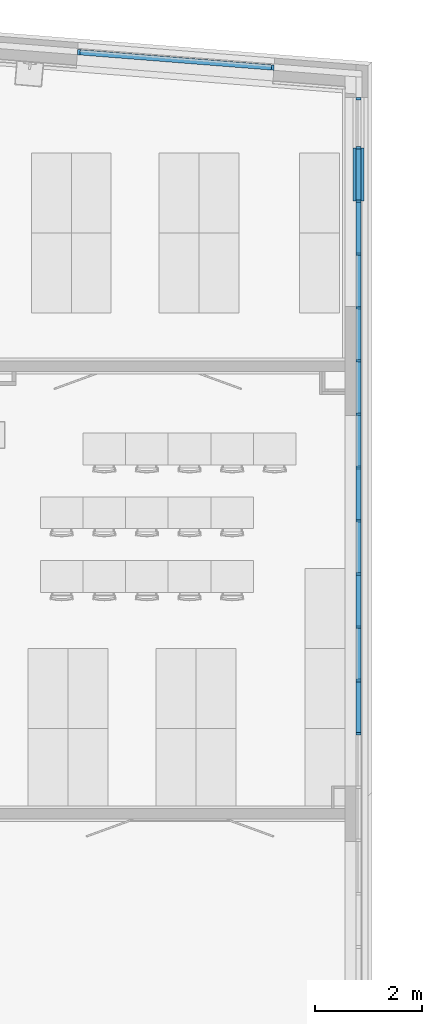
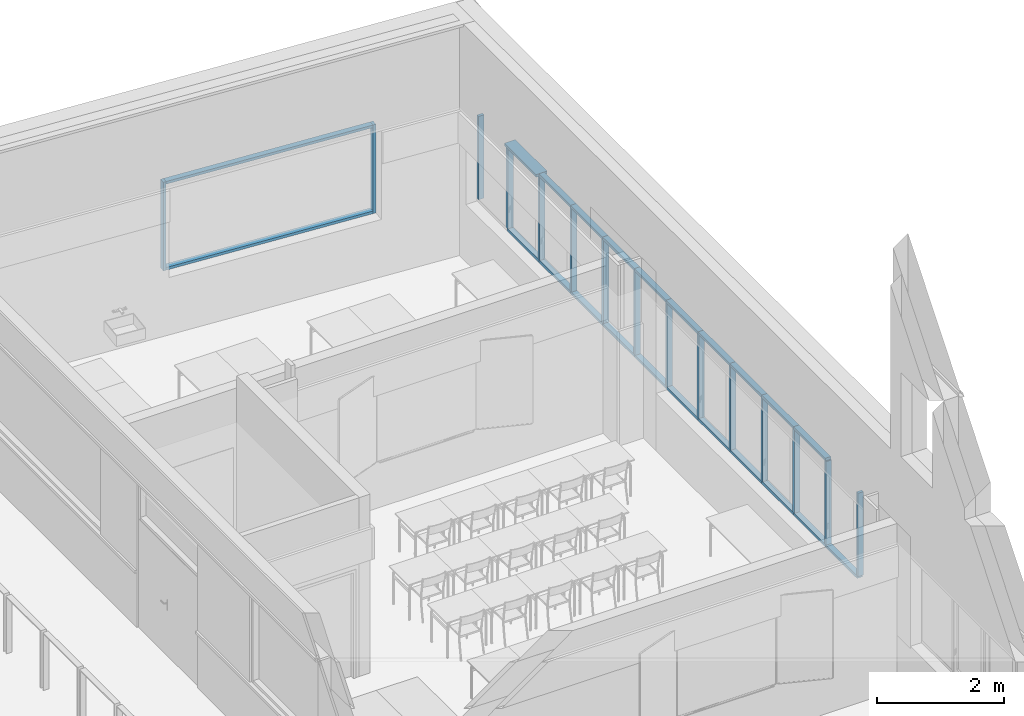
# One storey, part 18 of 137: 38 members, 2 elements without a shape of their own.
"""IFC2X3 building model written with IfcOpenShell, lengths in centimetres."""

from ifc_helpers import new_model, entity, si_unit, converted_unit, derived_unit, direction, frame, frame_2d, origin, origin_2d_with_axis, place, context, subcontext, project, spatial, rectangle, extrude, material, type_object, element, aggregate, save


model = new_model("IFC2X3")

# Units and contexts
model_context = context("Model", 3, precision=0.001, world=origin(), true_north=direction((6.12303176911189e-17, 1.0)))
body_context = subcontext(model_context, "Body", "Model", "MODEL_VIEW")
ifc_project = project(units=[si_unit("LENGTHUNIT", "METRE", prefix="CENTI"), si_unit("AREAUNIT", "SQUARE_METRE"), si_unit("VOLUMEUNIT", "CUBIC_METRE"), converted_unit("PLANEANGLEUNIT", "DEGREE", entity("IfcRatioMeasure", 0.0174532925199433), si_unit("PLANEANGLEUNIT", "RADIAN"), dimensions=[0, 0, 0, 0, 0, 0, 0]), si_unit("MASSUNIT", "GRAM", prefix="KILO"), si_unit("TIMEUNIT", "SECOND"), si_unit("FREQUENCYUNIT", "HERTZ"), si_unit("THERMODYNAMICTEMPERATUREUNIT", "DEGREE_CELSIUS"), derived_unit("THERMALTRANSMITTANCEUNIT", [(si_unit("MASSUNIT", "GRAM", prefix="KILO"), 1), (si_unit("THERMODYNAMICTEMPERATUREUNIT", "KELVIN"), -1), (si_unit("TIMEUNIT", "SECOND"), -3)]), derived_unit("VOLUMETRICFLOWRATEUNIT", [(si_unit("LENGTHUNIT", "METRE"), 3), (si_unit("TIMEUNIT", "SECOND"), -1)]), si_unit("ELECTRICCURRENTUNIT", "AMPERE"), si_unit("ELECTRICVOLTAGEUNIT", "VOLT"), si_unit("POWERUNIT", "WATT"), si_unit("FORCEUNIT", "NEWTON", prefix="KILO"), si_unit("ILLUMINANCEUNIT", "LUX"), si_unit("LUMINOUSFLUXUNIT", "LUMEN"), si_unit("LUMINOUSINTENSITYUNIT", "CANDELA"), derived_unit("USERDEFINED", [(si_unit("MASSUNIT", "GRAM", prefix="KILO"), -1), (si_unit("LENGTHUNIT", "METRE"), -2), (si_unit("TIMEUNIT", "SECOND"), 3), (si_unit("LUMINOUSFLUXUNIT", "LUMEN"), 1)]), derived_unit("LINEARVELOCITYUNIT", [(si_unit("LENGTHUNIT", "METRE"), 1), (si_unit("TIMEUNIT", "SECOND"), -1)]), si_unit("PRESSUREUNIT", "PASCAL"), derived_unit("USERDEFINED", [(si_unit("LENGTHUNIT", "METRE"), -2), (si_unit("MASSUNIT", "GRAM", prefix="KILO"), 1), (si_unit("TIMEUNIT", "SECOND"), -2)])], contexts=[model_context])

# Site, building, storey
site_placement = place(None, frame((8.62739174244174, -249.285249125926, 0.0)))
site = spatial("IfcSite", under=ifc_project, at=site_placement, Name="Default", CompositionType="ELEMENT")
building_placement = place(site_placement, origin())
building = spatial("IfcBuilding", under=site, at=building_placement, CompositionType="ELEMENT")
storey_placement = place(building_placement, origin())
storey = spatial("IfcBuildingStorey", under=building, at=storey_placement, Name="RDC", CompositionType="ELEMENT", Elevation=-8.82465566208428e-11)

# Curtain wall, members
curtain_wall_type = type_object("IfcCurtainWallType", Name="Mur-rideau:Simple panneau", PredefinedType="NOTDEFINED")
curtain_wall_1_placement = place(storey_placement, origin())
curtain_wall_1 = element("IfcCurtainWall", 1, at=curtain_wall_1_placement, inside=storey, type_object=curtain_wall_type, Name="Mur-rideau:Simple panneau", ObjectType="Mur-rideau:Simple panneau")
ifc_material = material(Name="Plastique, blanc opaque")
member_1_placement = place(curtain_wall_1_placement, origin())
member_1 = element("IfcMember", 2, at=member_1_placement, material=ifc_material, Name="Mur-rideau:Simple panneau", ObjectType="Mur-rideau:Simple panneau", context=body_context, shape_type="SweptSolid", body=[
    extrude(rectangle(XDim=9.99999999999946, YDim=4.99999999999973, at=frame_2d((0.0, -4.33209024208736e-13), x_axis=(1.0, 0.0))), frame((4003.90482781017, 7446.88936908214, 275.0), z_axis=(0.0, 0.0, -1.0), x_axis=(-1.0, 0.0, 0.0)), (0.0, 0.0, 1.0), 160.0),
])
member_2_placement = place(curtain_wall_1_placement, origin())
member_2 = element("IfcMember", 3, at=member_2_placement, material=ifc_material, Name="Mur-rideau:Simple panneau", ObjectType="Mur-rideau:Simple panneau", context=body_context, shape_type="SweptSolid", body=[
    extrude(rectangle(XDim=5.0, YDim=20.0000000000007, at=frame_2d((2.70894418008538e-14, 0.0), x_axis=(1.0, 0.0))), frame((4003.90482781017, 7254.9802081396, 277.500000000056), z_axis=(0.0, 1.0, 0.0), x_axis=(0.0, 0.0, -1.0)), (0.0, 0.0, 1.0), 100.000000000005),
])
member_3_placement = place(curtain_wall_1_placement, origin())
member_3 = element("IfcMember", 4, at=member_3_placement, material=ifc_material, Name="Mur-rideau:Simple panneau", ObjectType="Mur-rideau:Simple panneau", context=body_context, shape_type="SweptSolid", body=[
    extrude(rectangle(XDim=5.0, YDim=9.99999999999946, at=frame_2d((2.70894418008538e-14, 0.0), x_axis=(1.0, 0.0))), frame((4003.90482781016, 7154.9802081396, 277.500000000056), z_axis=(0.0, 1.0, 0.0), x_axis=(0.0, 0.0, -1.0)), (0.0, 0.0, 1.0), 99.9999999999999),
])
member_4_placement = place(curtain_wall_1_placement, origin())
member_4 = element("IfcMember", 5, at=member_4_placement, material=ifc_material, Name="Mur-rideau:Simple panneau", ObjectType="Mur-rideau:Simple panneau", context=body_context, shape_type="SweptSolid", body=[
    extrude(rectangle(XDim=5.0, YDim=9.99999999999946, at=frame_2d((2.70894418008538e-14, 0.0), x_axis=(1.0, 0.0))), frame((4003.90482781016, 7054.9802081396, 277.500000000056), z_axis=(0.0, 1.0, 0.0), x_axis=(0.0, 0.0, -1.0)), (0.0, 0.0, 1.0), 99.9999999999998),
])
member_5_placement = place(curtain_wall_1_placement, origin())
member_5 = element("IfcMember", 6, at=member_5_placement, material=ifc_material, Name="Mur-rideau:Simple panneau", ObjectType="Mur-rideau:Simple panneau", context=body_context, shape_type="SweptSolid", body=[
    extrude(rectangle(XDim=5.0, YDim=9.99999999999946, at=frame_2d((2.70894418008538e-14, 0.0), x_axis=(1.0, 0.0))), frame((4003.90482781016, 6954.9802081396, 277.500000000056), z_axis=(0.0, 1.0, 0.0), x_axis=(0.0, 0.0, -1.0)), (0.0, 0.0, 1.0), 99.9999999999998),
])
member_6_placement = place(curtain_wall_1_placement, origin())
member_6 = element("IfcMember", 7, at=member_6_placement, material=ifc_material, Name="Mur-rideau:Simple panneau", ObjectType="Mur-rideau:Simple panneau", context=body_context, shape_type="SweptSolid", body=[
    extrude(rectangle(XDim=5.0, YDim=9.99999999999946, at=frame_2d((2.70894418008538e-14, 0.0), x_axis=(1.0, 0.0))), frame((4003.90482781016, 6854.9802081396, 277.500000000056), z_axis=(0.0, 1.0, 0.0), x_axis=(0.0, 0.0, -1.0)), (0.0, 0.0, 1.0), 99.9999999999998),
])
member_7_placement = place(curtain_wall_1_placement, origin())
member_7 = element("IfcMember", 8, at=member_7_placement, material=ifc_material, Name="Mur-rideau:Simple panneau", ObjectType="Mur-rideau:Simple panneau", context=body_context, shape_type="SweptSolid", body=[
    extrude(rectangle(XDim=5.0, YDim=9.99999999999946, at=frame_2d((2.70894418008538e-14, 0.0), x_axis=(1.0, 0.0))), frame((4003.90482781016, 6754.9802081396, 277.500000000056), z_axis=(0.0, 1.0, 0.0), x_axis=(0.0, 0.0, -1.0)), (0.0, 0.0, 1.0), 99.9999999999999),
])
member_8_placement = place(curtain_wall_1_placement, origin())
member_8 = element("IfcMember", 9, at=member_8_placement, material=ifc_material, Name="Mur-rideau:Simple panneau", ObjectType="Mur-rideau:Simple panneau", context=body_context, shape_type="SweptSolid", body=[
    extrude(rectangle(XDim=5.0, YDim=9.99999999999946, at=frame_2d((2.70894418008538e-14, 0.0), x_axis=(1.0, 0.0))), frame((4003.90482781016, 6654.9802081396, 277.500000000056), z_axis=(0.0, 1.0, 0.0), x_axis=(0.0, 0.0, -1.0)), (0.0, 0.0, 1.0), 99.9999999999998),
])
member_9_placement = place(curtain_wall_1_placement, origin())
member_9 = element("IfcMember", 10, at=member_9_placement, material=ifc_material, Name="Mur-rideau:Simple panneau", ObjectType="Mur-rideau:Simple panneau", context=body_context, shape_type="SweptSolid", body=[
    extrude(rectangle(XDim=5.0, YDim=9.99999999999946, at=frame_2d((2.70894418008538e-14, 0.0), x_axis=(1.0, 0.0))), frame((4003.90482781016, 6554.9802081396, 277.500000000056), z_axis=(0.0, 1.0, 0.0), x_axis=(0.0, 0.0, -1.0)), (0.0, 0.0, 1.0), 99.9999999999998),
])
member_10_placement = place(curtain_wall_1_placement, origin())
member_10 = element("IfcMember", 11, at=member_10_placement, material=ifc_material, Name="Mur-rideau:Simple panneau", ObjectType="Mur-rideau:Simple panneau", context=body_context, shape_type="SweptSolid", body=[
    extrude(rectangle(XDim=5.0, YDim=9.99999999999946, at=frame_2d((2.70894418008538e-14, 0.0), x_axis=(1.0, 0.0))), frame((4003.90482781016, 6454.9802081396, 277.500000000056), z_axis=(0.0, 1.0, 0.0), x_axis=(0.0, 0.0, -1.0)), (0.0, 0.0, 1.0), 99.9999999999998),
])
member_11_placement = place(curtain_wall_1_placement, origin())
member_11 = element("IfcMember", 12, at=member_11_placement, material=ifc_material, Name="Mur-rideau:Simple panneau", ObjectType="Mur-rideau:Simple panneau", context=body_context, shape_type="SweptSolid", body=[
    extrude(rectangle(XDim=5.0, YDim=9.99999999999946, at=frame_2d((2.70894418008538e-14, 0.0), x_axis=(1.0, 0.0))), frame((4003.90482781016, 6354.9802081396, 277.500000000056), z_axis=(0.0, 1.0, 0.0), x_axis=(0.0, 0.0, -1.0)), (0.0, 0.0, 1.0), 99.9999999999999),
])
member_12_placement = place(curtain_wall_1_placement, origin())
member_12 = element("IfcMember", 13, at=member_12_placement, material=ifc_material, Name="Mur-rideau:Simple panneau", ObjectType="Mur-rideau:Simple panneau", context=body_context, shape_type="SweptSolid", body=[
    extrude(rectangle(XDim=9.99999999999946, YDim=5.0000000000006, at=origin_2d_with_axis()), frame((4003.90482781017, 7354.9802081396, 115.0), z_axis=(0.0, 0.0, 1.0), x_axis=(-1.0, 0.0, 0.0)), (0.0, 0.0, 1.0), 160.0),
])
member_13_placement = place(curtain_wall_1_placement, origin())
member_13 = element("IfcMember", 14, at=member_13_placement, material=ifc_material, Name="Mur-rideau:Simple panneau", ObjectType="Mur-rideau:Simple panneau", context=body_context, shape_type="SweptSolid", body=[
    extrude(rectangle(XDim=9.99999999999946, YDim=5.0000000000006, at=origin_2d_with_axis()), frame((4003.90482781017, 7254.9802081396, 115.0), z_axis=(0.0, 0.0, 1.0), x_axis=(-1.0, 0.0, 0.0)), (0.0, 0.0, 1.0), 160.0),
])
member_14_placement = place(curtain_wall_1_placement, origin())
member_14 = element("IfcMember", 15, at=member_14_placement, material=ifc_material, Name="Mur-rideau:Simple panneau", ObjectType="Mur-rideau:Simple panneau", context=body_context, shape_type="SweptSolid", body=[
    extrude(rectangle(XDim=9.99999999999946, YDim=5.0000000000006, at=frame_2d((8.66418048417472e-13, 0.0), x_axis=(1.0, 0.0))), frame((4003.90482781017, 7154.9802081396, 115.0), z_axis=(0.0, 0.0, 1.0), x_axis=(-1.0, 0.0, 0.0)), (0.0, 0.0, 1.0), 160.0),
])
member_15_placement = place(curtain_wall_1_placement, origin())
member_15 = element("IfcMember", 16, at=member_15_placement, material=ifc_material, Name="Mur-rideau:Simple panneau", ObjectType="Mur-rideau:Simple panneau", context=body_context, shape_type="SweptSolid", body=[
    extrude(rectangle(XDim=9.99999999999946, YDim=5.0000000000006, at=frame_2d((8.66418048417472e-13, 0.0), x_axis=(1.0, 0.0))), frame((4003.90482781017, 7054.9802081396, 115.0), z_axis=(0.0, 0.0, 1.0), x_axis=(-1.0, 0.0, 0.0)), (0.0, 0.0, 1.0), 160.0),
])
member_16_placement = place(curtain_wall_1_placement, origin())
member_16 = element("IfcMember", 17, at=member_16_placement, material=ifc_material, Name="Mur-rideau:Simple panneau", ObjectType="Mur-rideau:Simple panneau", context=body_context, shape_type="SweptSolid", body=[
    extrude(rectangle(XDim=9.99999999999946, YDim=5.0000000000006, at=frame_2d((8.66418048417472e-13, 0.0), x_axis=(1.0, 0.0))), frame((4003.90482781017, 6954.9802081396, 115.0), z_axis=(0.0, 0.0, 1.0), x_axis=(-1.0, 0.0, 0.0)), (0.0, 0.0, 1.0), 160.0),
])
member_17_placement = place(curtain_wall_1_placement, origin())
member_17 = element("IfcMember", 18, at=member_17_placement, material=ifc_material, Name="Mur-rideau:Simple panneau", ObjectType="Mur-rideau:Simple panneau", context=body_context, shape_type="SweptSolid", body=[
    extrude(rectangle(XDim=9.99999999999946, YDim=5.0000000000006, at=frame_2d((8.66418048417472e-13, 0.0), x_axis=(1.0, 0.0))), frame((4003.90482781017, 6854.9802081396, 115.0), z_axis=(0.0, 0.0, 1.0), x_axis=(-1.0, 0.0, 0.0)), (0.0, 0.0, 1.0), 160.0),
])
member_18_placement = place(curtain_wall_1_placement, origin())
member_18 = element("IfcMember", 19, at=member_18_placement, material=ifc_material, Name="Mur-rideau:Simple panneau", ObjectType="Mur-rideau:Simple panneau", context=body_context, shape_type="SweptSolid", body=[
    extrude(rectangle(XDim=9.99999999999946, YDim=5.0000000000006, at=origin_2d_with_axis()), frame((4003.90482781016, 6754.9802081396, 115.0), z_axis=(0.0, 0.0, 1.0), x_axis=(-1.0, 0.0, 0.0)), (0.0, 0.0, 1.0), 160.0),
])
member_19_placement = place(curtain_wall_1_placement, origin())
member_19 = element("IfcMember", 20, at=member_19_placement, material=ifc_material, Name="Mur-rideau:Simple panneau", ObjectType="Mur-rideau:Simple panneau", context=body_context, shape_type="SweptSolid", body=[
    extrude(rectangle(XDim=9.99999999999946, YDim=5.0000000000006, at=origin_2d_with_axis()), frame((4003.90482781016, 6654.9802081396, 115.0), z_axis=(0.0, 0.0, 1.0), x_axis=(-1.0, 0.0, 0.0)), (0.0, 0.0, 1.0), 160.0),
])
member_20_placement = place(curtain_wall_1_placement, origin())
member_20 = element("IfcMember", 21, at=member_20_placement, material=ifc_material, Name="Mur-rideau:Simple panneau", ObjectType="Mur-rideau:Simple panneau", context=body_context, shape_type="SweptSolid", body=[
    extrude(rectangle(XDim=9.99999999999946, YDim=5.0000000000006, at=origin_2d_with_axis()), frame((4003.90482781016, 6554.9802081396, 115.0), z_axis=(0.0, 0.0, 1.0), x_axis=(-1.0, 0.0, 0.0)), (0.0, 0.0, 1.0), 160.0),
])
member_21_placement = place(curtain_wall_1_placement, origin())
member_21 = element("IfcMember", 22, at=member_21_placement, material=ifc_material, Name="Mur-rideau:Simple panneau", ObjectType="Mur-rideau:Simple panneau", context=body_context, shape_type="SweptSolid", body=[
    extrude(rectangle(XDim=9.99999999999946, YDim=5.0000000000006, at=origin_2d_with_axis()), frame((4003.90482781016, 6454.9802081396, 115.0), z_axis=(0.0, 0.0, 1.0), x_axis=(-1.0, 0.0, 0.0)), (0.0, 0.0, 1.0), 160.0),
])
member_22_placement = place(curtain_wall_1_placement, origin())
member_22 = element("IfcMember", 23, at=member_22_placement, material=ifc_material, Name="Mur-rideau:Simple panneau", ObjectType="Mur-rideau:Simple panneau", context=body_context, shape_type="SweptSolid", body=[
    extrude(rectangle(XDim=9.99999999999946, YDim=5.0000000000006, at=origin_2d_with_axis()), frame((4003.90482781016, 6354.9802081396, 115.0), z_axis=(0.0, 0.0, 1.0), x_axis=(-1.0, 0.0, 0.0)), (0.0, 0.0, 1.0), 160.0),
])
member_23_placement = place(curtain_wall_1_placement, origin())
member_23 = element("IfcMember", 24, at=member_23_placement, material=ifc_material, Name="Mur-rideau:Simple panneau", ObjectType="Mur-rideau:Simple panneau", context=body_context, shape_type="SweptSolid", body=[
    extrude(rectangle(XDim=9.99999999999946, YDim=5.0000000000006, at=origin_2d_with_axis()), frame((4003.90482781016, 6254.9802081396, 115.0), z_axis=(0.0, 0.0, 1.0), x_axis=(-1.0, 0.0, 0.0)), (0.0, 0.0, 1.0), 160.0),
])
member_24_placement = place(curtain_wall_1_placement, origin())
member_24 = element("IfcMember", 25, at=member_24_placement, material=ifc_material, Name="Mur-rideau:Simple panneau", ObjectType="Mur-rideau:Simple panneau", context=body_context, shape_type="SweptSolid", body=[
    extrude(rectangle(XDim=5.0, YDim=9.99999999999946, at=origin_2d_with_axis()), frame((4003.90482781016, 6354.9802081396, 112.500000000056), z_axis=(0.0, -1.0, 0.0), x_axis=(0.0, 0.0, -1.0)), (0.0, 0.0, 1.0), 99.9999999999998),
])
member_25_placement = place(curtain_wall_1_placement, origin())
member_25 = element("IfcMember", 26, at=member_25_placement, material=ifc_material, Name="Mur-rideau:Simple panneau", ObjectType="Mur-rideau:Simple panneau", context=body_context, shape_type="SweptSolid", body=[
    extrude(rectangle(XDim=5.0, YDim=9.99999999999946, at=origin_2d_with_axis()), frame((4003.90482781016, 6454.9802081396, 112.500000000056), z_axis=(0.0, -1.0, 0.0), x_axis=(0.0, 0.0, -1.0)), (0.0, 0.0, 1.0), 99.9999999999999),
])
member_26_placement = place(curtain_wall_1_placement, origin())
member_26 = element("IfcMember", 27, at=member_26_placement, material=ifc_material, Name="Mur-rideau:Simple panneau", ObjectType="Mur-rideau:Simple panneau", context=body_context, shape_type="SweptSolid", body=[
    extrude(rectangle(XDim=5.0, YDim=9.99999999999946, at=origin_2d_with_axis()), frame((4003.90482781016, 6554.9802081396, 112.500000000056), z_axis=(0.0, -1.0, 0.0), x_axis=(0.0, 0.0, -1.0)), (0.0, 0.0, 1.0), 99.9999999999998),
])
member_27_placement = place(curtain_wall_1_placement, origin())
member_27 = element("IfcMember", 28, at=member_27_placement, material=ifc_material, Name="Mur-rideau:Simple panneau", ObjectType="Mur-rideau:Simple panneau", context=body_context, shape_type="SweptSolid", body=[
    extrude(rectangle(XDim=5.0, YDim=9.99999999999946, at=origin_2d_with_axis()), frame((4003.90482781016, 6654.9802081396, 112.500000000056), z_axis=(0.0, -1.0, 0.0), x_axis=(0.0, 0.0, -1.0)), (0.0, 0.0, 1.0), 99.9999999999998),
])
member_28_placement = place(curtain_wall_1_placement, origin())
member_28 = element("IfcMember", 29, at=member_28_placement, material=ifc_material, Name="Mur-rideau:Simple panneau", ObjectType="Mur-rideau:Simple panneau", context=body_context, shape_type="SweptSolid", body=[
    extrude(rectangle(XDim=5.0, YDim=9.99999999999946, at=origin_2d_with_axis()), frame((4003.90482781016, 6754.9802081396, 112.500000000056), z_axis=(0.0, -1.0, 0.0), x_axis=(0.0, 0.0, -1.0)), (0.0, 0.0, 1.0), 99.9999999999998),
])
member_29_placement = place(curtain_wall_1_placement, origin())
member_29 = element("IfcMember", 30, at=member_29_placement, material=ifc_material, Name="Mur-rideau:Simple panneau", ObjectType="Mur-rideau:Simple panneau", context=body_context, shape_type="SweptSolid", body=[
    extrude(rectangle(XDim=5.0, YDim=9.99999999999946, at=origin_2d_with_axis()), frame((4003.90482781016, 6854.9802081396, 112.500000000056), z_axis=(0.0, -1.0, 0.0), x_axis=(0.0, 0.0, -1.0)), (0.0, 0.0, 1.0), 99.9999999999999),
])
member_30_placement = place(curtain_wall_1_placement, origin())
member_30 = element("IfcMember", 31, at=member_30_placement, material=ifc_material, Name="Mur-rideau:Simple panneau", ObjectType="Mur-rideau:Simple panneau", context=body_context, shape_type="SweptSolid", body=[
    extrude(rectangle(XDim=5.0, YDim=9.99999999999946, at=origin_2d_with_axis()), frame((4003.90482781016, 6954.9802081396, 112.500000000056), z_axis=(0.0, -1.0, 0.0), x_axis=(0.0, 0.0, -1.0)), (0.0, 0.0, 1.0), 99.9999999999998),
])
member_31_placement = place(curtain_wall_1_placement, origin())
member_31 = element("IfcMember", 32, at=member_31_placement, material=ifc_material, Name="Mur-rideau:Simple panneau", ObjectType="Mur-rideau:Simple panneau", context=body_context, shape_type="SweptSolid", body=[
    extrude(rectangle(XDim=5.0, YDim=9.99999999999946, at=origin_2d_with_axis()), frame((4003.90482781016, 7054.9802081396, 112.500000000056), z_axis=(0.0, -1.0, 0.0), x_axis=(0.0, 0.0, -1.0)), (0.0, 0.0, 1.0), 99.9999999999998),
])
member_32_placement = place(curtain_wall_1_placement, origin())
member_32 = element("IfcMember", 33, at=member_32_placement, material=ifc_material, Name="Mur-rideau:Simple panneau", ObjectType="Mur-rideau:Simple panneau", context=body_context, shape_type="SweptSolid", body=[
    extrude(rectangle(XDim=5.0, YDim=9.99999999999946, at=origin_2d_with_axis()), frame((4003.90482781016, 7154.9802081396, 112.500000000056), z_axis=(0.0, -1.0, 0.0), x_axis=(0.0, 0.0, -1.0)), (0.0, 0.0, 1.0), 99.9999999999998),
])
member_33_placement = place(curtain_wall_1_placement, origin())
member_33 = element("IfcMember", 34, at=member_33_placement, material=ifc_material, Name="Mur-rideau:Simple panneau", ObjectType="Mur-rideau:Simple panneau", context=body_context, shape_type="SweptSolid", body=[
    extrude(rectangle(XDim=5.0, YDim=9.99999999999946, at=origin_2d_with_axis()), frame((4003.90482781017, 7254.9802081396, 112.500000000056), z_axis=(0.0, -1.0, 0.0), x_axis=(0.0, 0.0, -1.0)), (0.0, 0.0, 1.0), 99.9999999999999),
])
member_34_placement = place(curtain_wall_1_placement, origin())
member_34 = element("IfcMember", 35, at=member_34_placement, material=ifc_material, Name="Mur-rideau:Simple panneau", ObjectType="Mur-rideau:Simple panneau", context=body_context, shape_type="SweptSolid", body=[
    extrude(rectangle(XDim=5.0, YDim=9.99999999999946, at=origin_2d_with_axis()), frame((4003.90482781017, 7354.9802081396, 112.500000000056), z_axis=(0.0, -1.0, 0.0), x_axis=(0.0, 0.0, -1.0)), (0.0, 0.0, 1.0), 99.9999999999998),
])
aggregate(curtain_wall_1, [member_1, member_2, member_3, member_4, member_5, member_6, member_7, member_8, member_9, member_10, member_11, member_12, member_13, member_14, member_15, member_16, member_17, member_18, member_19, member_20, member_21, member_22, member_23, member_24, member_25, member_26, member_27, member_28, member_29, member_30, member_31, member_32, member_33, member_34])

curtain_wall_2_placement = place(storey_placement, origin())
curtain_wall_2 = element("IfcCurtainWall", 36, at=curtain_wall_2_placement, inside=storey, type_object=curtain_wall_type, Name="Mur-rideau:Simple panneau", ObjectType="Mur-rideau:Simple panneau")
member_35_placement = place(curtain_wall_2_placement, origin())
member_35 = element("IfcMember", 37, at=member_35_placement, material=ifc_material, Name="Mur-rideau:Simple panneau", ObjectType="Mur-rideau:Simple panneau", context=body_context, shape_type="SweptSolid", body=[
    extrude(rectangle(XDim=9.99999999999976, YDim=4.99999999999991, at=frame_2d((4.32098801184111e-13, -3.41948691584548e-14), x_axis=(1.0, 0.0))), frame((3479.07823780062, 7534.4062066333, 280.0), z_axis=(0.0, 0.0, -1.0), x_axis=(-0.0788249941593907, -0.996888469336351, 0.0)), (0.0, 0.0, 1.0), 170.0),
])
member_36_placement = place(curtain_wall_2_placement, origin())
member_36 = element("IfcMember", 38, at=member_36_placement, material=ifc_material, Name="Mur-rideau:Simple panneau", ObjectType="Mur-rideau:Simple panneau", context=body_context, shape_type="SweptSolid", body=[
    extrude(rectangle(XDim=5.0, YDim=9.99999999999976, at=frame_2d((2.70894418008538e-14, 0.0), x_axis=(1.0, 0.0))), frame((3840.45030793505, 7505.83214625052, 277.500000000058), z_axis=(-0.996888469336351, 0.0788249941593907, 0.0), x_axis=(0.0, 0.0, -1.0)), (0.0, 0.0, 1.0), 360.000000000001),
])
member_37_placement = place(curtain_wall_2_placement, origin())
member_37 = element("IfcMember", 39, at=member_37_placement, material=ifc_material, Name="Mur-rideau:Simple panneau", ObjectType="Mur-rideau:Simple panneau", context=body_context, shape_type="SweptSolid", body=[
    extrude(rectangle(XDim=4.99999999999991, YDim=9.99999999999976, at=frame_2d((3.44169137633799e-14, -4.32098801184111e-13), x_axis=(1.0, 0.0))), frame((3842.94252910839, 7505.63508376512, 110.0), z_axis=(0.0, 0.0, 1.0), x_axis=(0.996888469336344, -0.0788249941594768, 0.0)), (0.0, 0.0, 1.0), 170.0),
])
member_38_placement = place(curtain_wall_2_placement, origin())
member_38 = element("IfcMember", 40, at=member_38_placement, material=ifc_material, Name="Mur-rideau:Simple panneau", ObjectType="Mur-rideau:Simple panneau", context=body_context, shape_type="SweptSolid", body=[
    extrude(rectangle(XDim=5.0, YDim=9.99999999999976, at=frame_2d((0.0, 8.63753513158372e-13), x_axis=(1.0, 0.0))), frame((3481.57045897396, 7534.2091441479, 112.500000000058), z_axis=(0.996888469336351, -0.0788249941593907, 0.0), x_axis=(0.0, 0.0, -1.0)), (0.0, 0.0, 1.0), 360.000000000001),
])
aggregate(curtain_wall_2, [member_35, member_36, member_37, member_38])

save(model, "model.ifc")
